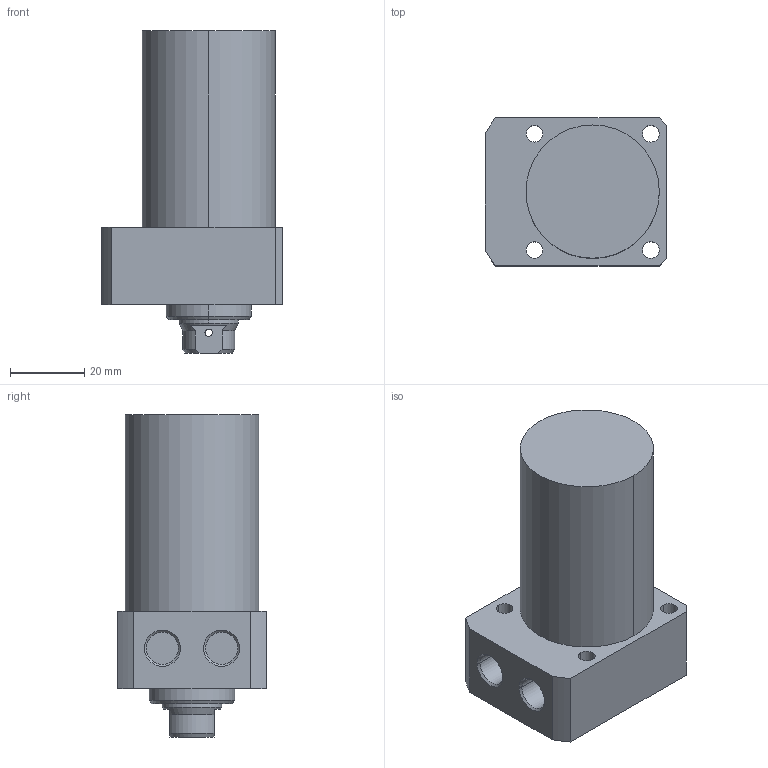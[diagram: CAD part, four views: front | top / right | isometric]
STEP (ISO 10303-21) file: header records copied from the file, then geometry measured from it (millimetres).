
FILE_DESCRIPTION((' '),'2;1');
FILE_NAME( 'TLLR-036CB-045.STEP.stp', '2025-10-24T16:35:45', (' '), ('--- Datakit www.datakit.com---'), ' Datakit CrossCadWare V2024.1 Dec 21 2023', 'Mastercam 2025', ' ');
FILE_SCHEMA(('AUTOMOTIVE_DESIGN { 1 0 10303 214 1 1 1 1 }'));
Length unit declared in the file: millimetre
Products named in the file (1): TLLR-036CB-045
Bounding box: 49 x 40 x 87 mm (x, y, z)
Volume: 94628.8 mm3; surface area: 16106.5 mm2
Topology: 1 solids, 1 shells, 65 faces, 192 edges, 133 vertices
Faces by surface type: cylinder 32, plane 19, cone 14
Entity records: 2878 total; most frequent: CARTESIAN_POINT 1013, DIRECTION 410, ORIENTED_EDGE 380, EDGE_CURVE 190, AXIS2_PLACEMENT_3D 170, VERTEX_POINT 133, CIRCLE 104, EDGE_LOOP 83
